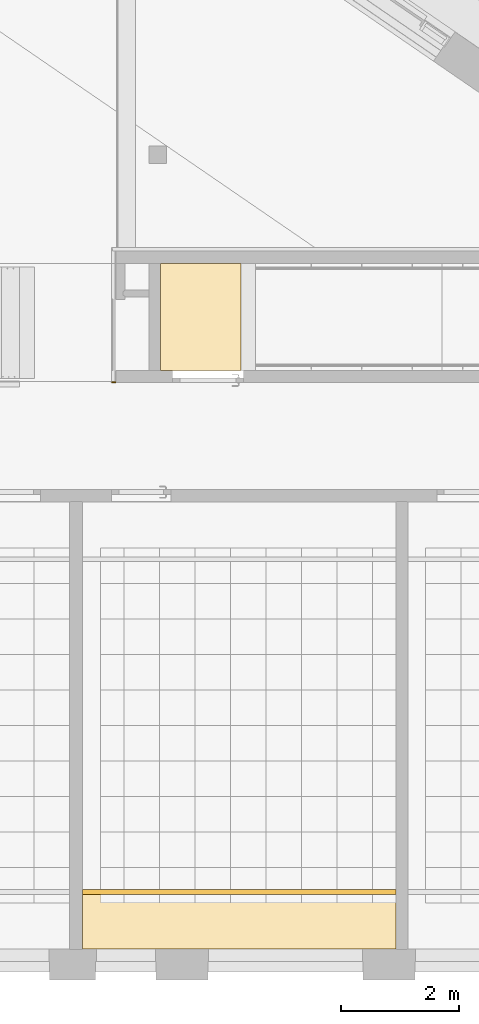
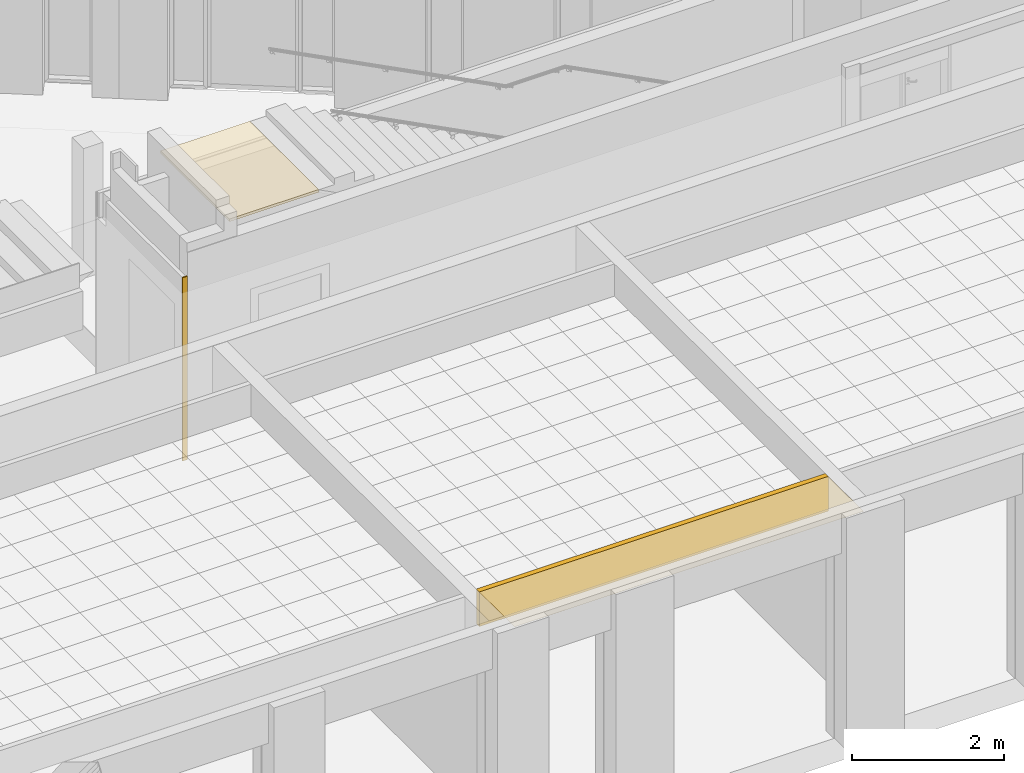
# One storey, part 59 of 79: 4 coverings.
"""IFC2X3 building model written with IfcOpenShell, lengths in millimetres."""

from ifc_helpers import new_model, entity, si_unit, converted_unit, derived_unit, money_unit, direction, frame, origin_with_axes, place, context, subcontext, project, spatial, faceted_brep, material, material_list, type_object, element, save


model = new_model("IFC2X3")

# Units and contexts
model_context = context("Model", 3, precision=0.01, world=origin_with_axes(), true_north=direction((0.0, 1.0)))
body_context = subcontext(model_context, "Body", "Model", "MODEL_VIEW")
ifc_project = project(units=[si_unit("LENGTHUNIT", "METRE", prefix="MILLI"), si_unit("AREAUNIT", "SQUARE_METRE"), si_unit("VOLUMEUNIT", "CUBIC_METRE"), converted_unit("PLANEANGLEUNIT", "DEGREE", entity("IfcPlaneAngleMeasure", 0.0174532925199), si_unit("PLANEANGLEUNIT", "RADIAN"), dimensions=[0, 0, 0, 0, 0, 0, 0]), si_unit("SOLIDANGLEUNIT", "STERADIAN"), money_unit("EUR"), converted_unit("TIMEUNIT", "Year", entity("IfcTimeMeasure", 31556926.0), si_unit("TIMEUNIT", "SECOND"), dimensions=[0, 0, 1, 0, 0, 0, 0]), si_unit("MASSUNIT", "GRAM", prefix="KILO"), si_unit("THERMODYNAMICTEMPERATUREUNIT", "DEGREE_CELSIUS"), si_unit("LUMINOUSINTENSITYUNIT", "LUMEN"), si_unit("ENERGYUNIT", "JOULE", prefix="MEGA"), derived_unit("THERMALCONDUCTANCEUNIT", [(si_unit("POWERUNIT", "WATT"), 1), (si_unit("LENGTHUNIT", "METRE"), -1), (si_unit("THERMODYNAMICTEMPERATUREUNIT", "KELVIN"), -1)]), derived_unit("SPECIFICHEATCAPACITYUNIT", [(si_unit("ENERGYUNIT", "JOULE"), 1), (si_unit("MASSUNIT", "GRAM", prefix="KILO"), -1), (si_unit("THERMODYNAMICTEMPERATUREUNIT", "KELVIN"), -1)]), derived_unit("MASSDENSITYUNIT", [(si_unit("MASSUNIT", "GRAM", prefix="KILO"), 1), (si_unit("VOLUMEUNIT", "CUBIC_METRE"), -1)])], contexts=[model_context])

# Site, building, storey
site_placement = place(None, origin_with_axes())
site = spatial("IfcSite", under=ifc_project, at=site_placement, Name="L.Koidula tn 11b", CompositionType="ELEMENT")
building_placement = place(site_placement, origin_with_axes())
building = spatial("IfcBuilding", under=site, at=building_placement, Name="Rakvere Riigigümnaasium", CompositionType="ELEMENT")
storey_placement = place(building_placement, frame((0.0, 0.0, 3720.0), z_axis=(0.0, 0.0, 1.0), x_axis=(1.0, 0.0, 0.0)))
storey = spatial("IfcBuildingStorey", under=building, at=storey_placement, Name="2.korrus +3,72", CompositionType="ELEMENT", Elevation=3720.0)

# Coverings
ifc_material_1 = material(Name="mineraalvill+karkass")
ifc_material_2 = material(Name="SKR-02_Kipsplaat")
ifc_material_list = material_list([ifc_material_1, ifc_material_2])
covering_type_1 = type_object("IfcCoveringType", Name="SA-LV-kips 79", PredefinedType="CEILING")
covering_1_placement = place(storey_placement, frame((74869.715089, 6435.45437174, 2762.5), z_axis=(0.0, 0.0, 1.0), x_axis=(1.0, 0.0, 0.0)))
element("IfcCovering", 1, at=covering_1_placement, inside=storey, type_object=covering_type_1, material=ifc_material_list, Name="L-04 vert", PredefinedType="CEILING", context=body_context, shape_type="Brep", body=[
    faceted_brep([(5300.0, 12.5, 557.500000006), (5300.0, 78.5, 557.500000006), (0.0, 78.5, 557.500000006), (0.0, 12.5, 557.500000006), (5300.0, 12.5, 0.0), (5300.0, 78.5, 0.0), (0.0, 78.5, 0.0), (0.0, 12.5, 0.0)], [[[0, 1, 2, 3]], [[0, 4, 5, 1]], [[1, 5, 6, 2]], [[3, 2, 6, 7]], [[4, 0, 3, 7]], [[5, 4, 7, 6]]]),
    faceted_brep([(5300.0, 0.0, 557.500000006), (5300.0, 12.5, 557.500000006), (0.0, 12.5, 557.500000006), (0.0, 0.0, 557.500000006), (5300.0, 0.0, 0.0), (5300.0, 12.5, 0.0), (0.0, 12.5, 0.0), (0.0, 0.0, 0.0)], [[[0, 1, 2, 3]], [[0, 4, 5, 1]], [[1, 5, 6, 2]], [[3, 2, 6, 7]], [[4, 0, 3, 7]], [[5, 4, 7, 6]]]),
])
ifc_material_3 = material(Name="MDF")
covering_type_2 = type_object("IfcCoveringType", Name="MDF 20", PredefinedType="CLADDING")
covering_2_placement = place(storey_placement, frame((75415.0821418, 15110.4785302, 0.0), z_axis=(0.0, 0.0, 1.0), x_axis=(1.0, 0.0, 0.0)))
element("IfcCovering", 2, at=covering_2_placement, inside=storey, type_object=covering_type_2, material=ifc_material_3, Name="S-04", PredefinedType="CLADDING", context=body_context, shape_type="Brep", body=[
    faceted_brep([(-57.0, 0.0, 0.0), (14.9, 0.0, 0.0), (14.9, -20.0, 0.0), (-57.0, -20.0, 0.0), (-57.0, 0.0, 2945.0), (14.9, 0.0, 2945.0), (14.9, -20.0, 2945.0), (-57.0, -20.0, 2945.0)], [[[0, 1, 2, 3]], [[4, 5, 1, 0]], [[2, 1, 5, 6]], [[3, 2, 6, 7]], [[4, 0, 3, 7]], [[7, 6, 5, 4]]]),
])
ifc_material_4 = material(Name="Krohv akustiline")
covering_type_3 = type_object("IfcCoveringType", Name="Krohv akustiline 42", PredefinedType="CEILING")
covering_3_placement = place(storey_placement, frame((76189.9821418, 15300.4792042, 3470.0), z_axis=(0.0, 0.0, 1.0), x_axis=(1.0, 0.0, 0.0)))
element("IfcCovering", 3, at=covering_3_placement, inside=storey, type_object=covering_type_3, material=ifc_material_4, Name="L-06", PredefinedType="CEILING", context=body_context, shape_type="Brep", body=[
    faceted_brep([(0.0, 0.0, 0.0), (0.0, 0.0, -42.0), (1357.85542956, -0.000350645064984, -42.0), (1357.85542956, -0.000350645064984, 0.0), (0.0, 1809.97634073, 0.0), (0.0, 1809.97634073, -42.0), (1357.85542956, 1810.1050005, -42.0), (1357.85542956, 1810.1050005, 0.0)], [[[0, 1, 2, 3]], [[4, 5, 1, 0]], [[2, 1, 5, 6]], [[3, 2, 6, 7]], [[4, 0, 3, 7]], [[7, 6, 5, 4]]]),
])
ifc_material_5 = material(Name="Salto-siseviimistlus-ripplagi")
covering_type_4 = type_object("IfcCoveringType", Name="Salto-siseviimistlus-ripplagi 1", PredefinedType="CLADDING")
covering_4_placement = place(storey_placement, frame((74869.7164258, 6435.4543653, 3320.00000001), z_axis=(0.0, 0.0, 1.0), x_axis=(1.0, 0.0, 0.0)))
element("IfcCovering", 4, at=covering_4_placement, inside=storey, type_object=covering_type_4, material=ifc_material_5, Name="L-09", PredefinedType="CLADDING", context=body_context, shape_type="Brep", body=[
    faceted_brep([(0.0, 0.0, 0.0), (0.0, 0.0, -1.0), (0.0, -924.998826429, -1.0), (0.0, -924.998826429, 0.0), (5299.99866322, 0.0, 0.0), (5299.99866322, 0.0, -1.0), (5299.99866322, -924.998826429, -1.0), (5299.99866322, -924.998826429, 0.0)], [[[0, 1, 2, 3]], [[4, 5, 1, 0]], [[2, 1, 5, 6]], [[3, 2, 6, 7]], [[0, 3, 7, 4]], [[7, 6, 5, 4]]]),
])

save(model, "model.ifc")
